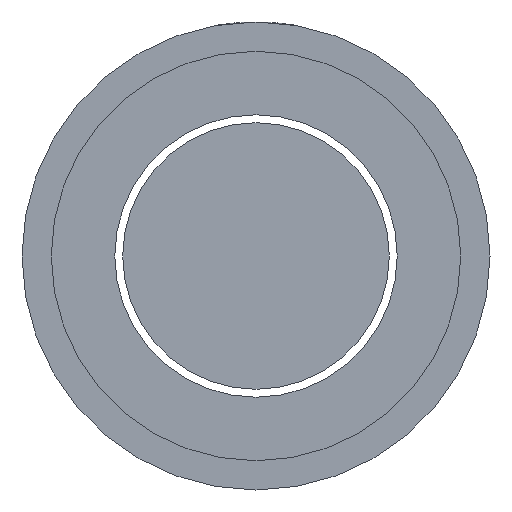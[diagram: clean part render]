
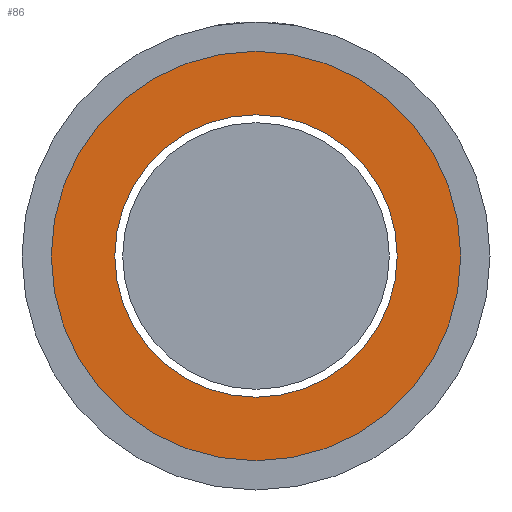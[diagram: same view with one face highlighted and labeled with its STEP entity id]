
A CAD part, front view. The second image highlights one B-rep face of the part: STEP entity #86.
In plain terms, the highlighted planar face has unit normal (0, -1, 0).
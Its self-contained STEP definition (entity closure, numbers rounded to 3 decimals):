
#66=PLANE('',#260);
#86=ADVANCED_FACE('',(#114,#115),#66,.T.);
#114=FACE_BOUND('',#135,.T.);
#115=FACE_BOUND('',#136,.T.);
#135=EDGE_LOOP('',(#164));
#136=EDGE_LOOP('',(#165));
#164=ORIENTED_EDGE('',*,*,#216,.F.);
#165=ORIENTED_EDGE('',*,*,#220,.T.);
#198=VERTEX_POINT('',#419);
#202=VERTEX_POINT('',#430);
#216=EDGE_CURVE('',#198,#198,#234,.T.);
#220=EDGE_CURVE('',#202,#202,#238,.T.);
#234=CIRCLE('',#251,8.45);
#238=CIRCLE('',#258,12.25);
#251=AXIS2_PLACEMENT_3D('',#418,#291,#292);
#258=AXIS2_PLACEMENT_3D('',#429,#305,#306);
#260=AXIS2_PLACEMENT_3D('',#432,#309,#310);
#291=DIRECTION('',(0.,-1.,0.));
#292=DIRECTION('',(0.,0.,-1.));
#305=DIRECTION('',(0.,-1.,0.));
#306=DIRECTION('',(1.,0.,0.));
#309=DIRECTION('',(0.,-1.,0.));
#310=DIRECTION('',(0.,0.,-1.));
#418=CARTESIAN_POINT('',(0.,4.28,0.));
#419=CARTESIAN_POINT('',(0.,4.28,-8.45));
#429=CARTESIAN_POINT('',(0.,4.28,0.));
#430=CARTESIAN_POINT('',(12.25,4.28,0.));
#432=CARTESIAN_POINT('',(0.,4.28,0.));
